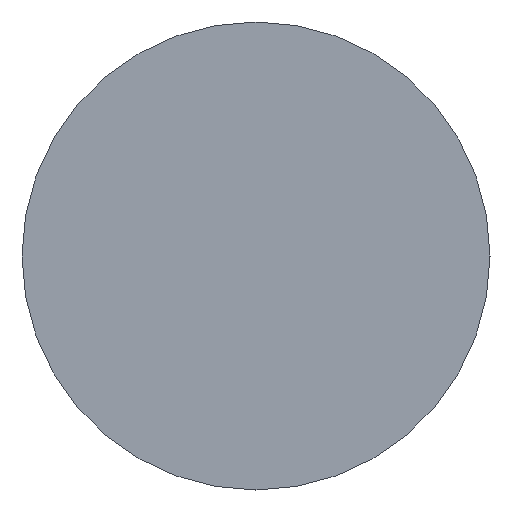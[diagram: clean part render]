
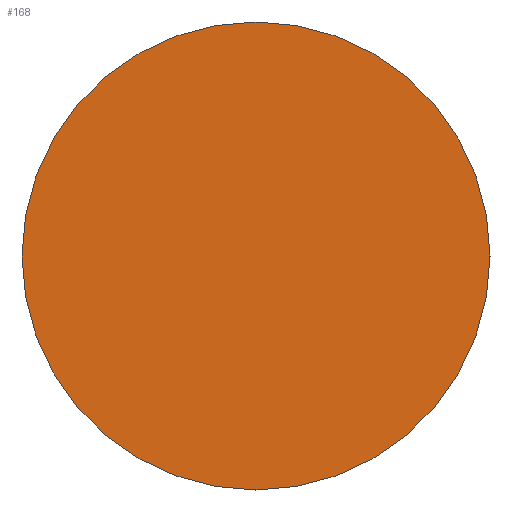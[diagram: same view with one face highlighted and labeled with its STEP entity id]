
A CAD part, left-side view. The second image highlights one B-rep face of the part: STEP entity #168.
In plain terms, the highlighted planar face has unit normal (-1, 0, 0).
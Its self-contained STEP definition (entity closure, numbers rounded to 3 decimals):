
#23 = EDGE_LOOP ( 'NONE', ( #369, #221 ) ) ;
#37 = FACE_OUTER_BOUND ( 'NONE', #23, .T. ) ;
#38 = PLANE ( 'NONE',  #39 ) ;
#39 = AXIS2_PLACEMENT_3D ( 'NONE', #40, #41, #42 ) ;
#40 = CARTESIAN_POINT ( 'NONE',  ( 0., 10., 0. ) ) ;
#41 = DIRECTION ( 'NONE',  ( 1., 0., 0. ) ) ;
#42 = DIRECTION ( 'NONE',  ( 0., 0., -1. ) ) ;
#56 = CARTESIAN_POINT ( 'NONE',  ( 0., 0., -10. ) ) ;
#88 = CARTESIAN_POINT ( 'NONE',  ( 0., 0., 10. ) ) ;
#168 = ADVANCED_FACE ( 'NONE', ( #37 ), #38, .F. ) ;
#173 = CIRCLE ( 'NONE', #174, 10. ) ;
#174 = AXIS2_PLACEMENT_3D ( 'NONE', #175, #176, #177 ) ;
#175 = CARTESIAN_POINT ( 'NONE',  ( 0., 0., 0. ) ) ;
#176 = DIRECTION ( 'NONE',  ( -1., 0., 0. ) ) ;
#177 = DIRECTION ( 'NONE',  ( 0., 0., 1. ) ) ;
#178 = CIRCLE ( 'NONE', #179, 10. ) ;
#179 = AXIS2_PLACEMENT_3D ( 'NONE', #180, #181, #182 ) ;
#180 = CARTESIAN_POINT ( 'NONE',  ( 0., 0., 0. ) ) ;
#181 = DIRECTION ( 'NONE',  ( -1., 0., 0. ) ) ;
#182 = DIRECTION ( 'NONE',  ( 0., 0., 1. ) ) ;
#219 = VERTEX_POINT ( 'NONE', #56 ) ;
#221 = ORIENTED_EDGE ( 'NONE', *, *, #354, .T. ) ;
#303 = VERTEX_POINT ( 'NONE', #88 ) ;
#353 = EDGE_CURVE ( 'NONE', #303, #219, #173, .T. ) ;
#354 = EDGE_CURVE ( 'NONE', #219, #303, #178, .T. ) ;
#369 = ORIENTED_EDGE ( 'NONE', *, *, #353, .T. ) ;
